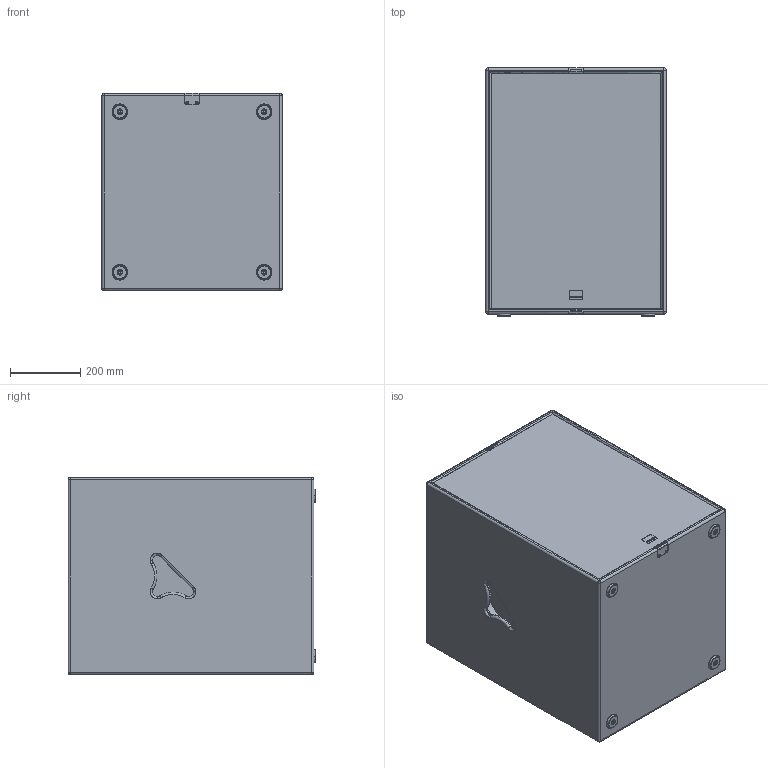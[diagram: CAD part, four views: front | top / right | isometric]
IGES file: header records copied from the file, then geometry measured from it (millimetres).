
Start section: SolidWorks IGES file using analytic representation for surfaces
Global section: file name: C:\Dokumente und Einstellungen\PC_Fabian\Desktop\K-Serie\Seeburg_B1801.IGS; native system: SolidWorks 2009; preprocessor: SolidWorks 2009; author: PC_Fabian; date: 121016.133039; units: millimetre
Bounding box: 512 x 704 x 560 mm (x, y, z)
Surface area: 4275343.5 mm2 (no closed solid volume)
Topology: 0 solids, 0 shells, 622 faces, 8928 edges, 8924 vertices
Faces by surface type: revolution 322, bspline 300
